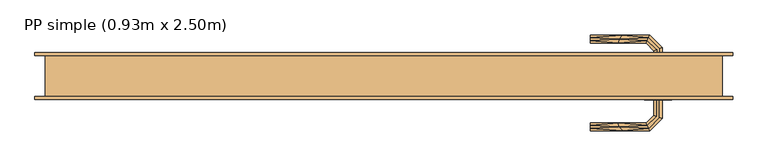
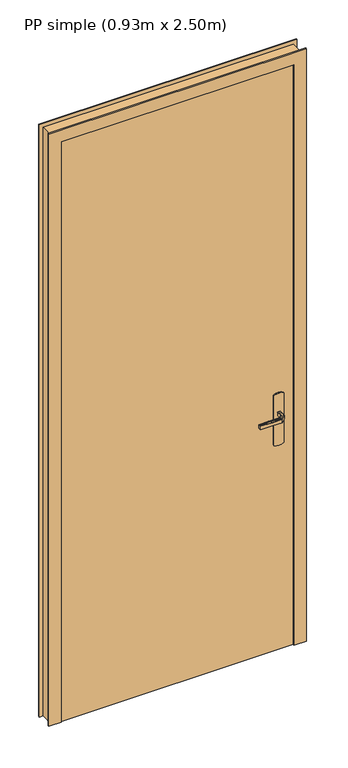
"""IFC4 building model written with IfcOpenShell, lengths in millimetres: door geometry, PP simple (0.93m x 2.50m)."""

from ifc_helpers import new_model, si_unit, frame, origin, origin_with_axes, place, context, project, spatial, polyline, outline, extrude, faceted_brep, source, transform, mapped, element, save


def pp_simple_0_93m_x_2_50m_32767180(model_context):
    return source(origin(), model_context, "Body", "SolidModel", [
        faceted_brep([(972.9747013, 45.0, 992.2195592), (977.0252987, 45.0, 992.2195592), (981.0, 45.0, 993.0), (981.0, 45.0, 1007.0), (977.0252987, 45.0, 1007.7804408), (972.9747013, 45.0, 1007.7804408), (969.0, 45.0, 1007.0), (969.0, 45.0, 993.0), (969.0, 67.4852045, 1007.0), (969.0, 67.4852045, 993.0), (972.9747013, 69.1315797, 1007.7804408), (977.0252987, 70.8093921, 1007.7804408), (960.8389062, 86.9957845, 1007.7804408), (959.1610938, 82.9451872, 1007.7804408), (981.0, 72.4557673, 1007.0), (981.0, 72.4557673, 993.0), (977.0252987, 70.8093921, 992.2195592), (972.9747013, 69.1315797, 992.2195592), (959.1610938, 82.9451872, 992.2195592), (960.8389062, 86.9957845, 992.2195592), (957.5147186, 78.9704859, 1007.0), (957.5147186, 78.9704859, 993.0), (962.4852814, 90.9704859, 1007.0), (962.4852814, 90.9704859, 993.0), (874.9542163, 82.9451872, 1007.7804408), (874.9542163, 86.9957845, 1007.7804408), (874.9542163, 90.9704859, 1007.0), (874.9542163, 90.9704859, 993.0), (874.9542163, 86.9957845, 992.2195592), (874.9542163, 82.9451872, 992.2195592), (874.9542163, 78.9704859, 993.0), (874.9542163, 78.9704859, 1007.0), (916.2344675, 78.9704859, 1007.0), (916.2344794, 78.9704859, 993.0), (917.0576551, 84.9704859, 1007.8786868), (922.5547942, 90.9704859, 1007.0), (922.5547957, 90.9704859, 993.0), (917.0576549, 84.9704858, 992.1213132)], [[[0, 1, 2, 3, 4, 5, 6, 7]], [[8, 9, 7, 6]], [[5, 10, 8, 6]], [[5, 4, 11, 12, 13, 10]], [[3, 14, 11, 4]], [[14, 3, 2, 15]], [[2, 1, 16, 15]], [[1, 0, 17, 18, 19, 16]], [[0, 7, 9, 17]], [[20, 21, 9, 8]], [[8, 10, 13, 20]], [[14, 22, 12, 11]], [[23, 22, 14, 15]], [[15, 16, 19, 23]], [[17, 9, 21, 18]], [[24, 25, 26, 27, 28, 29, 30, 31]], [[21, 20, 32, 31, 30, 33]], [[34, 24, 32]], [[25, 34, 35]], [[13, 32, 20]], [[24, 31, 32]], [[25, 35, 26]], [[35, 12, 22]], [[34, 12, 35]], [[34, 13, 12]], [[34, 32, 13]], [[24, 34, 25]], [[22, 23, 36, 27, 26, 35]], [[37, 28, 36]], [[36, 28, 27]], [[36, 23, 19]], [[18, 33, 37]], [[33, 18, 21]], [[30, 29, 33]], [[37, 29, 28]], [[37, 33, 29]], [[37, 36, 19]], [[18, 37, 19]]]),
        extrude(outline(polyline([(870.0, 995.0), (1080.0, 995.0), (1083.9960169, 985.3527618), (1085.3589838, 975.0), (1083.9960169, 964.6472382), (1080.0, 955.0), (870.0, 955.0), (866.0039831, 964.6472382), (864.6410162, 975.0), (866.0039831, 985.3527618), (870.0, 995.0)])), frame((0.0, -5.0, 0.0), z_axis=(0.0, 1.0, 0.0), x_axis=(0.0, 0.0, 1.0)), (0.0, 0.0, 1.0), 5.0),
        faceted_brep([(1070.0, 60.0, 0.0), (1070.0, 0.0, 0.0), (1085.0, 0.0, 0.0), (1085.0, -5.0, 0.0), (1035.0, -5.0, 0.0), (1035.0, 40.0, 0.0), (1020.0, 40.0, 0.0), (1020.0, 65.0, 0.0), (1085.0, 65.0, 0.0), (1085.0, 60.0, 0.0), (1070.0, 60.0, 2485.0), (1070.0, 0.0, 2485.0), (1085.0, 60.0, 2500.0), (55.0, 60.0, 2500.0), (55.0, 60.0, 0.0), (70.0, 60.0, 0.0), (70.0, 60.0, 2485.0), (1020.0, 40.0, 2435.0), (1020.0, 65.0, 2435.0), (1035.0, 40.0, 2450.0), (105.0, 40.0, 2450.0), (105.0, 40.0, 0.0), (120.0, 40.0, 0.0), (120.0, 40.0, 2435.0), (70.0, 0.0, 0.0), (70.0, 0.0, 2485.0), (55.0, 65.0, 0.0), (120.0, 65.0, 0.0), (105.0, -5.0, 0.0), (55.0, -5.0, 0.0), (55.0, 0.0, 0.0), (120.0, 65.0, 2435.0), (1035.0, -5.0, 2450.0), (1085.0, -5.0, 2500.0), (55.0, -5.0, 2500.0), (105.0, -5.0, 2450.0), (1085.0, 0.0, 2500.0), (55.0, 0.0, 2500.0), (1085.0, 65.0, 2500.0), (55.0, 65.0, 2500.0)], [[[0, 1, 2, 3, 4, 5, 6, 7, 8, 9]], [[0, 10, 11, 1]], [[9, 12, 13, 14, 15, 16, 10, 0]], [[7, 6, 17, 18]], [[5, 19, 20, 21, 22, 23, 17, 6]], [[16, 15, 24, 25]], [[15, 14, 26, 27, 22, 21, 28, 29, 30, 24]], [[23, 22, 27, 31]], [[10, 16, 25, 11]], [[17, 23, 31, 18]], [[5, 4, 32, 19]], [[3, 33, 34, 29, 28, 35, 32, 4]], [[2, 36, 33, 3]], [[1, 11, 25, 24, 30, 37, 36, 2]], [[8, 38, 12, 9]], [[7, 18, 31, 27, 26, 39, 38, 8]], [[35, 28, 21, 20]], [[37, 30, 29, 34]], [[39, 26, 14, 13]], [[32, 35, 20, 19]], [[36, 37, 34, 33]], [[38, 39, 13, 12]]]),
        faceted_brep([(972.9747013, -5.0, 1007.7804408), (977.0252987, -5.0, 1007.7804408), (981.0, -5.0, 1007.0), (981.0, -5.0, 993.0), (977.0252987, -5.0, 992.2195592), (972.9747013, -5.0, 992.2195592), (969.0, -5.0, 993.0), (969.0, -5.0, 1007.0), (977.0252987, -31.0045755, 1007.7804408), (981.0, -32.6509507, 1007.0), (972.9747013, -29.3267632, 1007.7804408), (959.2986025, -43.002862, 1007.7804408), (960.9764148, -47.0534593, 1007.7804408), (969.0, -27.680388, 1007.0), (969.0, -27.680388, 993.0), (972.9747013, -29.3267632, 992.2195592), (977.0252987, -31.0045755, 992.2195592), (960.9764148, -47.0534593, 992.2195592), (959.2986025, -43.002862, 992.2195592), (981.0, -32.6509507, 993.0), (962.62279, -51.0281607, 1007.0), (957.6522273, -39.0281607, 1007.0), (957.6522273, -39.0281607, 993.0), (962.62279, -51.0281607, 993.0), (874.9813594, -51.0281607, 1007.0), (874.9813594, -47.0534593, 1007.7804408), (874.9813594, -43.002862, 1007.7804408), (874.9813594, -39.0281607, 1007.0), (874.9813594, -39.0281607, 993.0), (874.9813594, -43.002862, 992.2195592), (874.9813594, -47.0534593, 992.2195592), (874.9813594, -51.0281607, 993.0), (917.1399809, -45.0281607, 1007.8786868), (922.6923028, -51.0281607, 1007.0), (916.3167933, -39.0281607, 1007.0), (916.3167933, -39.0281607, 993.0), (917.1399811, -45.0281608, 992.1213132), (922.6923104, -51.0281607, 993.0)], [[[0, 1, 2, 3, 4, 5, 6, 7]], [[2, 1, 8, 9]], [[1, 0, 10, 11, 12, 8]], [[0, 7, 13, 10]], [[14, 13, 7, 6]], [[5, 15, 14, 6]], [[5, 4, 16, 17, 18, 15]], [[3, 19, 16, 4]], [[9, 19, 3, 2]], [[9, 8, 12, 20]], [[10, 13, 21, 11]], [[22, 21, 13, 14]], [[14, 15, 18, 22]], [[16, 19, 23, 17]], [[20, 23, 19, 9]], [[24, 25, 26, 27, 28, 29, 30, 31]], [[32, 25, 33]], [[33, 25, 24]], [[33, 20, 12]], [[11, 34, 32]], [[34, 11, 21]], [[27, 26, 34]], [[32, 26, 25]], [[32, 34, 26]], [[32, 33, 12]], [[11, 32, 12]], [[21, 22, 35, 28, 27, 34]], [[36, 29, 35]], [[30, 36, 37]], [[18, 35, 22]], [[29, 28, 35]], [[30, 37, 31]], [[37, 17, 23]], [[36, 17, 37]], [[36, 18, 17]], [[36, 35, 18]], [[29, 36, 30]], [[23, 20, 33, 24, 31, 37]]]),
        extrude(outline(polyline([(870.0, 995.0), (1080.0, 995.0), (1083.9960169, 985.3527618), (1085.3589838, 975.0), (1083.9960169, 964.6472382), (1080.0, 955.0), (870.0, 955.0), (866.0039831, 964.6472382), (864.6410162, 975.0), (866.0039831, 985.3527618), (870.0, 995.0)])), frame((0.0, 40.0, 0.0), z_axis=(0.0, 1.0, 0.0), x_axis=(0.0, 0.0, 1.0)), (0.0, 0.0, 1.0), 5.0),
        extrude(outline(polyline([(1035.0, 40.0), (1035.0, 0.0), (105.0, 0.0), (105.0, 40.0), (1035.0, 40.0)])), origin_with_axes(), (0.0, 0.0, 1.0), 2450.0),
    ])


if __name__ == "__main__":
    model = new_model("IFC4")
    model_context = context("Model", 3, world=origin())
    ifc_project = project(units=[si_unit("LENGTHUNIT", "METRE", prefix="MILLI")], contexts=[model_context])
    site = spatial("IfcSite", under=ifc_project)
    building = spatial("IfcBuilding", under=site)
    placement = place(None, origin())
    pp_simple_0_93m_x_2_50m_shape = pp_simple_0_93m_x_2_50m_32767180(model_context)
    element("IfcDoor", 1, ObjectType="PP simple (0.93m x 2.50m)", at=placement, inside=building, context=model_context, shape_type="MappedRepresentation", body=[
        mapped(pp_simple_0_93m_x_2_50m_shape, transform((0.0, 0.0, 0.0), x_axis=(1.0, 0.0, 0.0), y_axis=(0.0, 1.0, 0.0), z_axis=(0.0, 0.0, 1.0))),
    ])
    save(model, "model.ifc")
